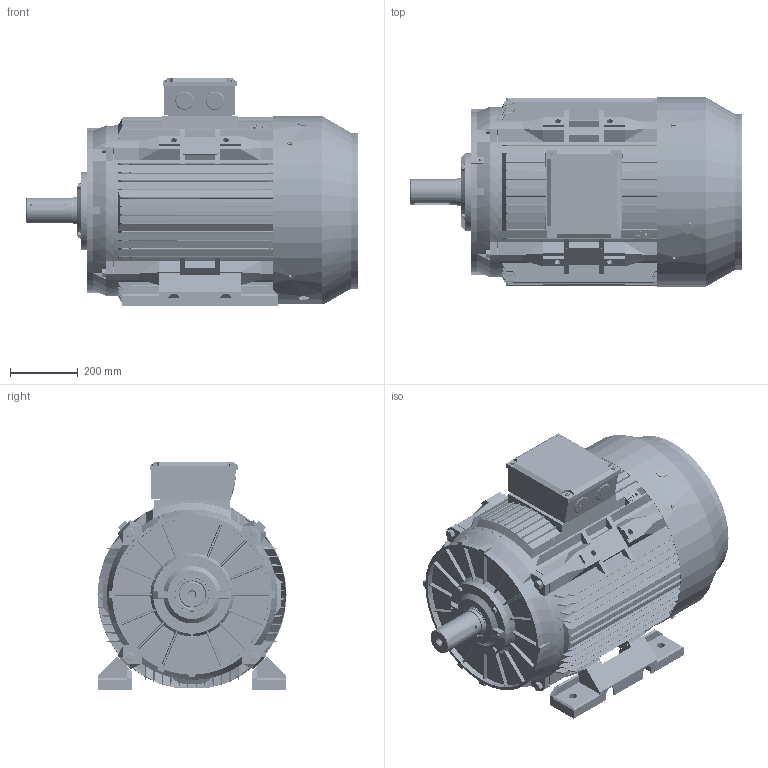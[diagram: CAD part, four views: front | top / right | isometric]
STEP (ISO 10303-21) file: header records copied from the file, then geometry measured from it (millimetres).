
FILE_DESCRIPTION (( 'STEP AP214' ), '1' );
FILE_NAME ('BCT4450.28A603.11.step', '2020-04-23T15:17:26', ( '' ), ( '' ), 'SwSTEP 2.0', 'SolidWorks 2019', '' );
FILE_SCHEMA (( 'AUTOMOTIVE_DESIGN' ));
Length unit declared in the file: millimetre
Products named in the file (1): BCT4450.28A603.11
Bounding box: 981.2 x 559 x 671.14 mm (x, y, z)
Volume: 35450696.8 mm3; surface area: 6851122.4 mm2
Topology: 43 solids, 44 shells, 10017 faces, 29373 edges, 19378 vertices
Faces by surface type: plane 5042, cylinder 4235, cone 319, torus 182, sphere 124, bspline 115
Entity records: 364610 total; most frequent: CARTESIAN_POINT 90886, ORIENTED_EDGE 58338, DIRECTION 56179, EDGE_CURVE 29169, VERTEX_POINT 19316, AXIS2_PLACEMENT_3D 19087, LINE 18005, VECTOR 18005
